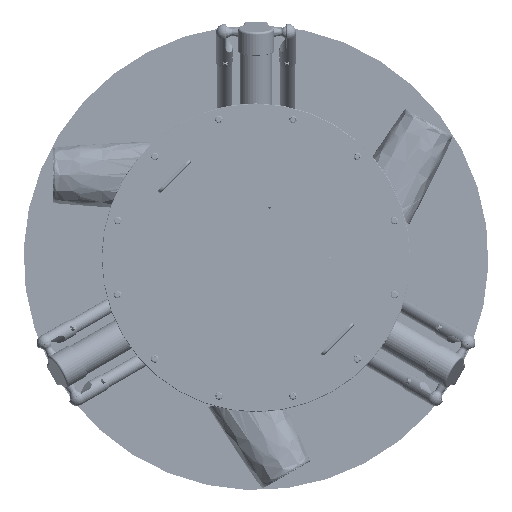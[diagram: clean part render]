
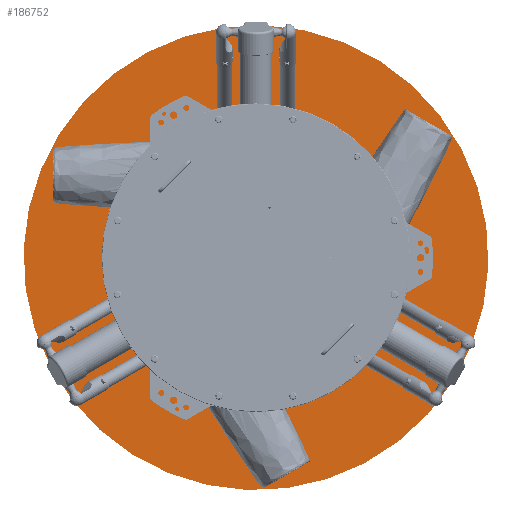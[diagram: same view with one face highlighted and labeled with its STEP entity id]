
A CAD part, front view. The second image highlights one B-rep face of the part: STEP entity #186752.
In plain terms, the highlighted planar face has unit normal (0, -1, 0) as drawn and (0, 1, 0) by its records, which use the part's own axes.
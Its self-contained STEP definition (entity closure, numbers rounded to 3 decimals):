
#10912 = DIRECTION ( 'NONE',  ( 0., -1., 0. ) ) ;
#11660 = AXIS2_PLACEMENT_3D ( 'NONE', #236183, #61899, #265523 ) ;
#14440 = AXIS2_PLACEMENT_3D ( 'NONE', #242438, #10912, #214501 ) ;
#33742 = FACE_OUTER_BOUND ( 'NONE', #190254, .T. ) ;
#34537 = CARTESIAN_POINT ( 'NONE',  ( 0., 378., -565. ) ) ;
#50545 = VERTEX_POINT ( 'NONE', #170951 ) ;
#61899 = DIRECTION ( 'NONE',  ( 0., -1., 0. ) ) ;
#69573 = EDGE_CURVE ( 'NONE', #50545, #141549, #173823, .T. ) ;
#83918 = CARTESIAN_POINT ( 'NONE',  ( 0., 378., 0. ) ) ;
#113077 = DIRECTION ( 'NONE',  ( 0., 0., -1. ) ) ;
#126564 = PLANE ( 'NONE',  #14440 ) ;
#141549 = VERTEX_POINT ( 'NONE', #34537 ) ;
#152432 = EDGE_CURVE ( 'NONE', #141549, #50545, #331982, .T. ) ;
#170951 = CARTESIAN_POINT ( 'NONE',  ( 0., 378., 565. ) ) ;
#173823 = CIRCLE ( 'NONE', #11660, 565. ) ;
#186752 = ADVANCED_FACE ( 'NONE', ( #33742 ), #126564, .F. ) ;
#190254 = EDGE_LOOP ( 'NONE', ( #214139, #239321 ) ) ;
#214139 = ORIENTED_EDGE ( 'NONE', *, *, #152432, .F. ) ;
#214501 = DIRECTION ( 'NONE',  ( 0., 0., -1. ) ) ;
#236183 = CARTESIAN_POINT ( 'NONE',  ( 0., 378., 0. ) ) ;
#239321 = ORIENTED_EDGE ( 'NONE', *, *, #69573, .F. ) ;
#242438 = CARTESIAN_POINT ( 'NONE',  ( 0., 378., 0. ) ) ;
#265523 = DIRECTION ( 'NONE',  ( 0., 0., -1. ) ) ;
#287609 = DIRECTION ( 'NONE',  ( 0., -1., 0. ) ) ;
#288683 = AXIS2_PLACEMENT_3D ( 'NONE', #83918, #287609, #113077 ) ;
#331982 = CIRCLE ( 'NONE', #288683, 565. ) ;
